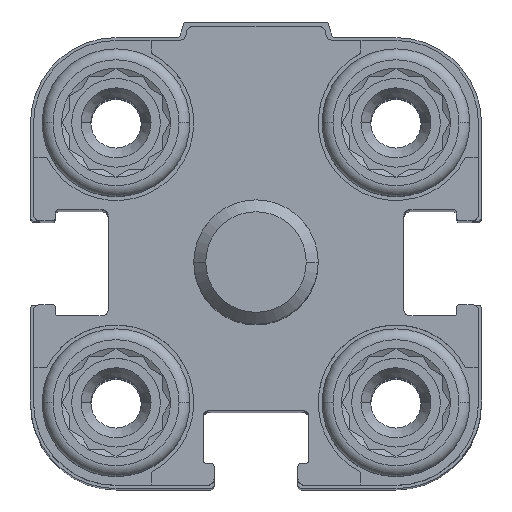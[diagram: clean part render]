
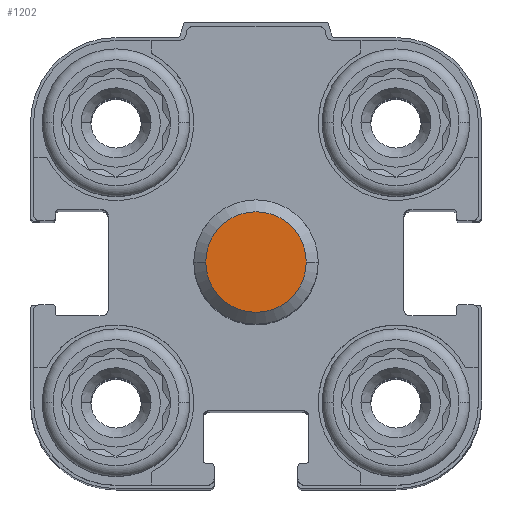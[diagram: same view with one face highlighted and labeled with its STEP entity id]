
A CAD part, top view. The second image highlights one B-rep face of the part: STEP entity #1202.
In plain terms, the highlighted planar face has unit normal (0, 0, 1).
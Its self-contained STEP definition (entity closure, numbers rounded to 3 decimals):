
#278 = AXIS2_PLACEMENT_3D ( 'NONE', #9872, #3068, #6360 ) ;
#341 = CARTESIAN_POINT ( 'NONE',  ( 0., 0., 24.5 ) ) ;
#459 = EDGE_CURVE ( 'NONE', #16219, #11252, #7782, .T. ) ;
#515 = ORIENTED_EDGE ( 'NONE', *, *, #459, .F. ) ;
#893 = PLANE ( 'NONE',  #278 ) ;
#1134 = DIRECTION ( 'NONE',  ( -1., 0., 0. ) ) ;
#1202 = ADVANCED_FACE ( 'NONE', ( #5947 ), #893, .F. ) ;
#1355 = DIRECTION ( 'NONE',  ( -1., 0., 0. ) ) ;
#2254 = CARTESIAN_POINT ( 'NONE',  ( 3.233, 0., 24.5 ) ) ;
#3044 = CARTESIAN_POINT ( 'NONE',  ( -3.233, 0., 24.5 ) ) ;
#3068 = DIRECTION ( 'NONE',  ( 0., 0., -1. ) ) ;
#5947 = FACE_OUTER_BOUND ( 'NONE', #17140, .T. ) ;
#6360 = DIRECTION ( 'NONE',  ( 0., 1., 0. ) ) ;
#6523 = CARTESIAN_POINT ( 'NONE',  ( 0., 0., 24.5 ) ) ;
#6687 = DIRECTION ( 'NONE',  ( 0., 0., -1. ) ) ;
#7782 = CIRCLE ( 'NONE', #8073, 3.233 ) ;
#8073 = AXIS2_PLACEMENT_3D ( 'NONE', #6523, #6687, #1134 ) ;
#8425 = DIRECTION ( 'NONE',  ( 0., 0., -1. ) ) ;
#9872 = CARTESIAN_POINT ( 'NONE',  ( 0., 0., 24.5 ) ) ;
#10710 = CIRCLE ( 'NONE', #15582, 3.233 ) ;
#11252 = VERTEX_POINT ( 'NONE', #3044 ) ;
#14695 = ORIENTED_EDGE ( 'NONE', *, *, #16423, .F. ) ;
#15582 = AXIS2_PLACEMENT_3D ( 'NONE', #341, #8425, #1355 ) ;
#16219 = VERTEX_POINT ( 'NONE', #2254 ) ;
#16423 = EDGE_CURVE ( 'NONE', #11252, #16219, #10710, .T. ) ;
#17140 = EDGE_LOOP ( 'NONE', ( #14695, #515 ) ) ;
